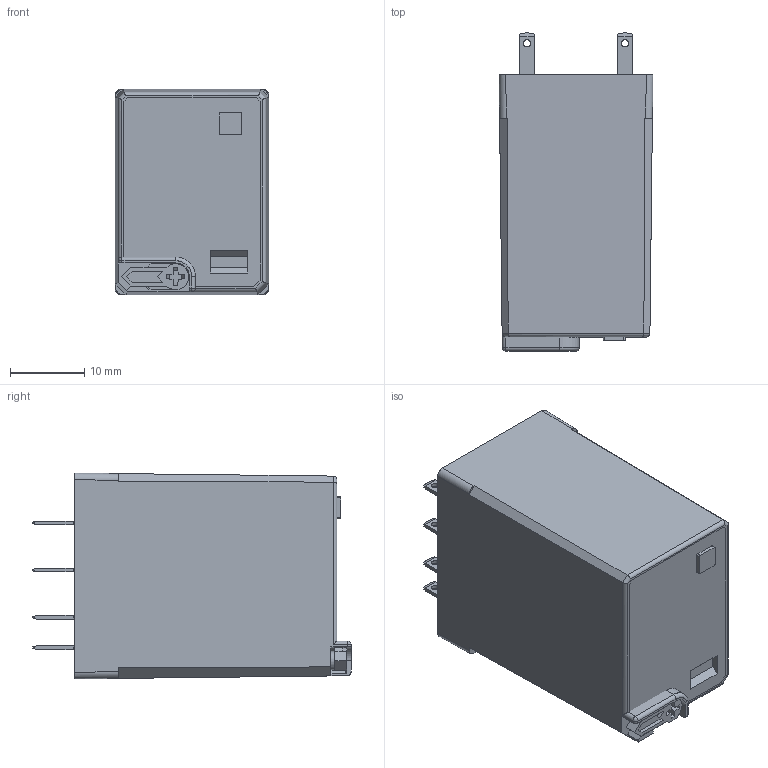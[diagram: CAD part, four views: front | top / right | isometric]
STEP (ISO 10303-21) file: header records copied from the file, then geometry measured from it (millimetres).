
FILE_DESCRIPTION(('STEP AP214'),'2;1');
FILE_NAME('complessivo 55 2 sc con pulsante Innesto AC---catalogo_OK.stp','2010-11-19T14:06:26',(''),(''),'2007.1.106','THINKDESIGN','');
FILE_SCHEMA(('AUTOMOTIVE_DESIGN'));
Length unit declared in the file: millimetre
Products named in the file (1): None
Bounding box: 20.7 x 42.8 x 27.7 mm (x, y, z)
Surface area: 7739.7 mm2 (no closed solid volume)
Topology: 0 solids, 0 shells, 276 faces, 1541 edges, 1521 vertices
Faces by surface type: plane 186, cylinder 60, bspline 30
Full cylindrical faces by diameter (mm): 1 x8, 2.5 x1, 5 x1
Entity records: 16072 total; most frequent: CARTESIAN_POINT 4965, DIRECTION 1899, COMPOSITE_CURVE_SEGMENT 1539, TRIMMED_CURVE 1300, VECTOR 1231, LINE 1231, AXIS2_PLACEMENT_3D 334, OUTER_BOUNDARY_CURVE 276
